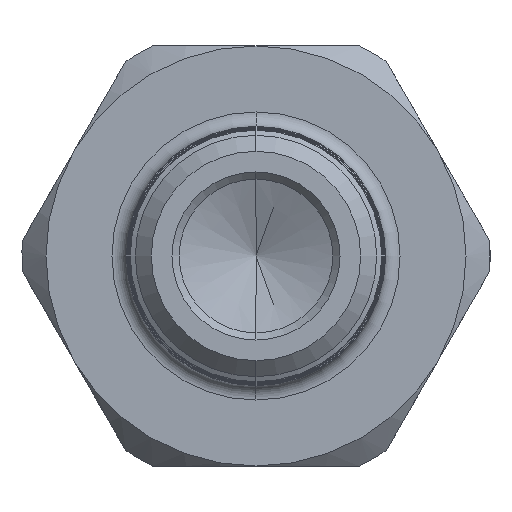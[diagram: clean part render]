
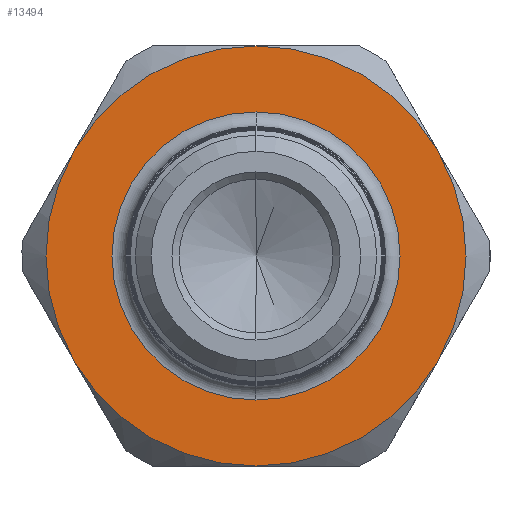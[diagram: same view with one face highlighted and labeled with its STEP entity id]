
A CAD part, left-side view. The second image highlights one B-rep face of the part: STEP entity #13494.
In plain terms, the highlighted planar face has unit normal (-1, 0, 0).
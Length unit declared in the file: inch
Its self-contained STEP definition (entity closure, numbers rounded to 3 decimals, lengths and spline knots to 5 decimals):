
#90 = EDGE_CURVE ( 'NONE', #9458, #14876, #3078, .T. ) ;
#135 = CIRCLE ( 'NONE', #3742, 0.4375 ) ;
#259 = DIRECTION ( 'NONE',  ( -1., 0., 0. ) ) ;
#288 = CARTESIAN_POINT ( 'NONE',  ( 0.585, 0., 0. ) ) ;
#411 = DIRECTION ( 'NONE',  ( -1., 0., 0. ) ) ;
#437 = CARTESIAN_POINT ( 'NONE',  ( 0.585, 0., 0. ) ) ;
#457 = DIRECTION ( 'NONE',  ( 0., 0., 1. ) ) ;
#489 = VERTEX_POINT ( 'NONE', #2824 ) ;
#597 = CARTESIAN_POINT ( 'NONE',  ( 0.585, 0., 0.3 ) ) ;
#668 = DIRECTION ( 'NONE',  ( -1., 0., 0. ) ) ;
#675 = CIRCLE ( 'NONE', #16419, 0.3 ) ;
#787 = CARTESIAN_POINT ( 'NONE',  ( 0.585, 0., 0. ) ) ;
#800 = DIRECTION ( 'NONE',  ( -1., 0., 0. ) ) ;
#817 = VERTEX_POINT ( 'NONE', #12597 ) ;
#900 = ORIENTED_EDGE ( 'NONE', *, *, #90, .T. ) ;
#922 = EDGE_LOOP ( 'NONE', ( #5108, #2122 ) ) ;
#1959 = AXIS2_PLACEMENT_3D ( 'NONE', #437, #259, #9668 ) ;
#1990 = AXIS2_PLACEMENT_3D ( 'NONE', #16981, #6169, #10398 ) ;
#2001 = CARTESIAN_POINT ( 'NONE',  ( 0.585, -0.37889, -0.21875 ) ) ;
#2020 = ORIENTED_EDGE ( 'NONE', *, *, #5009, .T. ) ;
#2122 = ORIENTED_EDGE ( 'NONE', *, *, #4448, .T. ) ;
#2452 = CIRCLE ( 'NONE', #16271, 0.3 ) ;
#2797 = CIRCLE ( 'NONE', #3661, 0.4375 ) ;
#2824 = CARTESIAN_POINT ( 'NONE',  ( 0.585, 0., 0.4375 ) ) ;
#3078 = CIRCLE ( 'NONE', #1990, 0.4375 ) ;
#3267 = EDGE_CURVE ( 'NONE', #14876, #6371, #135, .T. ) ;
#3661 = AXIS2_PLACEMENT_3D ( 'NONE', #7245, #668, #5940 ) ;
#3742 = AXIS2_PLACEMENT_3D ( 'NONE', #4430, #800, #457 ) ;
#3871 = CIRCLE ( 'NONE', #12152, 0.4375 ) ;
#3939 = EDGE_CURVE ( 'NONE', #5891, #8692, #675, .T. ) ;
#4180 = DIRECTION ( 'NONE',  ( 0., 0., 1. ) ) ;
#4430 = CARTESIAN_POINT ( 'NONE',  ( 0.585, 0., 0. ) ) ;
#4435 = FACE_OUTER_BOUND ( 'NONE', #8207, .T. ) ;
#4448 = EDGE_CURVE ( 'NONE', #8692, #5891, #2452, .T. ) ;
#4728 = DIRECTION ( 'NONE',  ( 0., 0., 1. ) ) ;
#5009 = EDGE_CURVE ( 'NONE', #5554, #817, #9746, .T. ) ;
#5108 = ORIENTED_EDGE ( 'NONE', *, *, #3939, .T. ) ;
#5554 = VERTEX_POINT ( 'NONE', #2001 ) ;
#5891 = VERTEX_POINT ( 'NONE', #597 ) ;
#5940 = DIRECTION ( 'NONE',  ( 0., 0., 1. ) ) ;
#5984 = ORIENTED_EDGE ( 'NONE', *, *, #16547, .T. ) ;
#6169 = DIRECTION ( 'NONE',  ( -1., 0., 0. ) ) ;
#6255 = AXIS2_PLACEMENT_3D ( 'NONE', #288, #14906, #4180 ) ;
#6371 = VERTEX_POINT ( 'NONE', #11555 ) ;
#7038 = FACE_BOUND ( 'NONE', #922, .T. ) ;
#7245 = CARTESIAN_POINT ( 'NONE',  ( 0.585, 0., 0. ) ) ;
#7461 = ORIENTED_EDGE ( 'NONE', *, *, #3267, .T. ) ;
#8078 = DIRECTION ( 'NONE',  ( 0., 0., 1. ) ) ;
#8207 = EDGE_LOOP ( 'NONE', ( #14766, #2020, #12636, #5984, #900, #7461 ) ) ;
#8326 = DIRECTION ( 'NONE',  ( 1., 0., 0. ) ) ;
#8692 = VERTEX_POINT ( 'NONE', #13726 ) ;
#8711 = DIRECTION ( 'NONE',  ( -1., 0., 0. ) ) ;
#9458 = VERTEX_POINT ( 'NONE', #13607 ) ;
#9668 = DIRECTION ( 'NONE',  ( 0., 0., 1. ) ) ;
#9677 = DIRECTION ( 'NONE',  ( 0., 0., 1. ) ) ;
#9746 = CIRCLE ( 'NONE', #10594, 0.4375 ) ;
#10398 = DIRECTION ( 'NONE',  ( 0., 0., 1. ) ) ;
#10594 = AXIS2_PLACEMENT_3D ( 'NONE', #14575, #8711, #13993 ) ;
#10668 = CARTESIAN_POINT ( 'NONE',  ( 0.585, 0., 0. ) ) ;
#10911 = EDGE_CURVE ( 'NONE', #817, #489, #3871, .T. ) ;
#11555 = CARTESIAN_POINT ( 'NONE',  ( 0.585, 0., -0.4375 ) ) ;
#11835 = CARTESIAN_POINT ( 'NONE',  ( 0.585, 0.37889, -0.21875 ) ) ;
#12152 = AXIS2_PLACEMENT_3D ( 'NONE', #12249, #411, #4728 ) ;
#12249 = CARTESIAN_POINT ( 'NONE',  ( 0.585, 0., 0. ) ) ;
#12512 = EDGE_CURVE ( 'NONE', #6371, #5554, #16612, .T. ) ;
#12597 = CARTESIAN_POINT ( 'NONE',  ( 0.585, -0.37889, 0.21875 ) ) ;
#12636 = ORIENTED_EDGE ( 'NONE', *, *, #10911, .T. ) ;
#13494 = ADVANCED_FACE ( 'NONE', ( #7038, #4435 ), #16382, .T. ) ;
#13607 = CARTESIAN_POINT ( 'NONE',  ( 0.585, 0.37889, 0.21875 ) ) ;
#13726 = CARTESIAN_POINT ( 'NONE',  ( 0.585, 0., -0.3 ) ) ;
#13993 = DIRECTION ( 'NONE',  ( 0., 0., 1. ) ) ;
#14575 = CARTESIAN_POINT ( 'NONE',  ( 0.585, 0., 0. ) ) ;
#14766 = ORIENTED_EDGE ( 'NONE', *, *, #12512, .T. ) ;
#14876 = VERTEX_POINT ( 'NONE', #11835 ) ;
#14906 = DIRECTION ( 'NONE',  ( -1., 0., 0. ) ) ;
#16271 = AXIS2_PLACEMENT_3D ( 'NONE', #787, #16448, #9677 ) ;
#16382 = PLANE ( 'NONE',  #6255 ) ;
#16419 = AXIS2_PLACEMENT_3D ( 'NONE', #10668, #8326, #8078 ) ;
#16448 = DIRECTION ( 'NONE',  ( 1., 0., 0. ) ) ;
#16547 = EDGE_CURVE ( 'NONE', #489, #9458, #2797, .T. ) ;
#16612 = CIRCLE ( 'NONE', #1959, 0.4375 ) ;
#16981 = CARTESIAN_POINT ( 'NONE',  ( 0.585, 0., 0. ) ) ;
